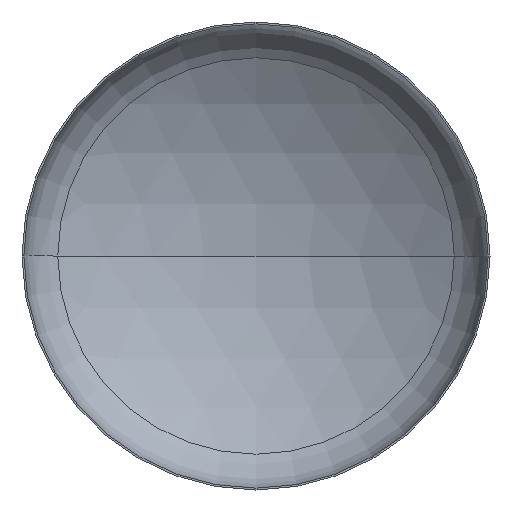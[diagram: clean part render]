
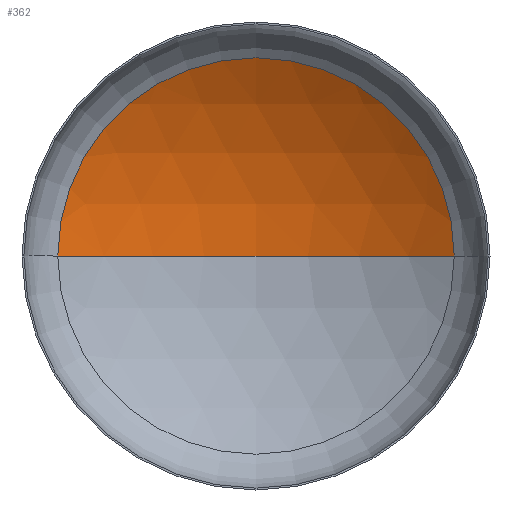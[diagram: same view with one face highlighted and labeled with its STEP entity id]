
A CAD part, front view. The second image highlights one B-rep face of the part: STEP entity #362.
In plain terms, the highlighted spherical face has radius 6000 mm.
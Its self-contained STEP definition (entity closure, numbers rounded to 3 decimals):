
#7 = CARTESIAN_POINT ( 'NONE',  ( -3176.471, 1069.862, 0. ) ) ;
#34 = EDGE_CURVE ( 'NONE', #41, #69, #257, .T. ) ;
#35 = EDGE_CURVE ( 'NONE', #124, #41, #177, .T. ) ;
#37 = EDGE_CURVE ( 'NONE', #124, #69, #250, .T. ) ;
#41 = VERTEX_POINT ( 'NONE', #283 ) ;
#69 = VERTEX_POINT ( 'NONE', #7 ) ;
#73 = CARTESIAN_POINT ( 'NONE',  ( 0., -4020.328, 0. ) ) ;
#79 = ORIENTED_EDGE ( 'NONE', *, *, #34, .T. ) ;
#99 = AXIS2_PLACEMENT_3D ( 'NONE', #281, #207, #203 ) ;
#100 = ORIENTED_EDGE ( 'NONE', *, *, #35, .T. ) ;
#121 = AXIS2_PLACEMENT_3D ( 'NONE', #73, #190, #343 ) ;
#124 = VERTEX_POINT ( 'NONE', #174 ) ;
#136 = AXIS2_PLACEMENT_3D ( 'NONE', #191, #192, #153 ) ;
#138 = CARTESIAN_POINT ( 'NONE',  ( 0., 1069.862, 0. ) ) ;
#152 = EDGE_LOOP ( 'NONE', ( #162, #100, #79 ) ) ;
#153 = DIRECTION ( 'NONE',  ( 1., 0., 0. ) ) ;
#162 = ORIENTED_EDGE ( 'NONE', *, *, #37, .F. ) ;
#166 = DIRECTION ( 'NONE',  ( 0., -1., 0. ) ) ;
#167 = DIRECTION ( 'NONE',  ( 1., 0., 0. ) ) ;
#174 = CARTESIAN_POINT ( 'NONE',  ( 0., 1979.672, 0. ) ) ;
#177 = CIRCLE ( 'NONE', #99, 6000. ) ;
#190 = DIRECTION ( 'NONE',  ( 0., 0., -1. ) ) ;
#191 = CARTESIAN_POINT ( 'NONE',  ( 0., -4020.328, 0. ) ) ;
#192 = DIRECTION ( 'NONE',  ( 0., 0., 1. ) ) ;
#203 = DIRECTION ( 'NONE',  ( -1., 0., 0. ) ) ;
#207 = DIRECTION ( 'NONE',  ( 0., 0., -1. ) ) ;
#250 = CIRCLE ( 'NONE', #136, 6000. ) ;
#257 = CIRCLE ( 'NONE', #406, 3176.471 ) ;
#258 = FACE_OUTER_BOUND ( 'NONE', #152, .T. ) ;
#266 = SPHERICAL_SURFACE ( 'NONE', #121, 6000. ) ;
#281 = CARTESIAN_POINT ( 'NONE',  ( 0., -4020.328, 0. ) ) ;
#283 = CARTESIAN_POINT ( 'NONE',  ( 3176.471, 1069.862, 0. ) ) ;
#343 = DIRECTION ( 'NONE',  ( -1., 0., 0. ) ) ;
#362 = ADVANCED_FACE ( 'NONE', ( #258 ), #266, .F. ) ;
#406 = AXIS2_PLACEMENT_3D ( 'NONE', #138, #166, #167 ) ;
